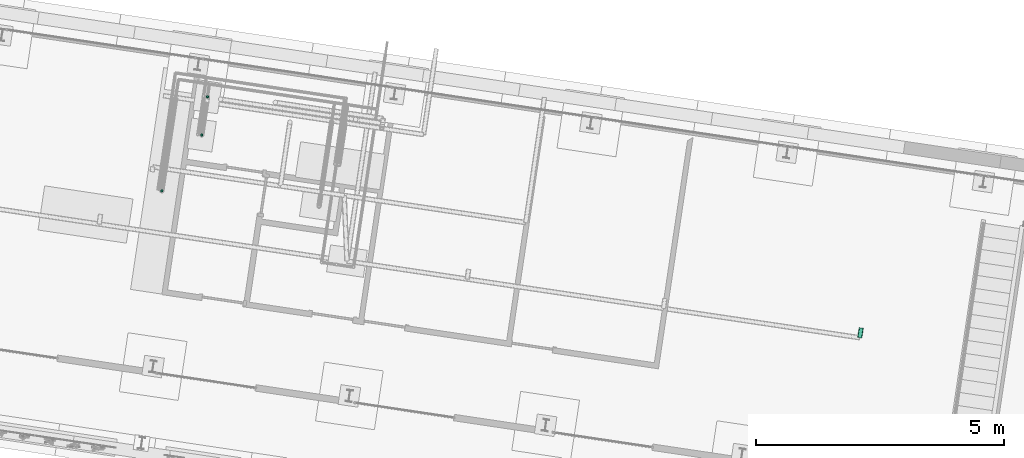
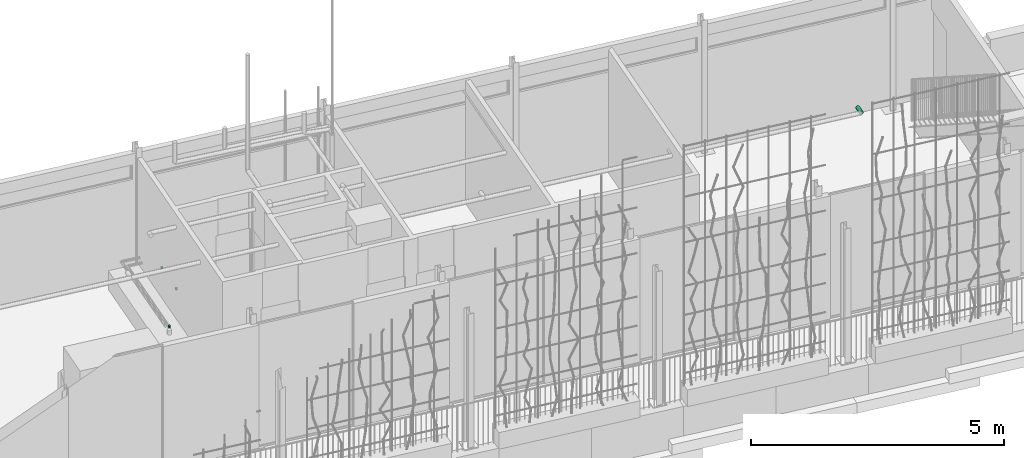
# One storey, part 139 of 142: 3 pipe segments, 1 duct segment.
"""IFC4 building model written with IfcOpenShell, lengths in metres."""

import ifcopenshell
import ifcopenshell.guid

model = None  # the IFC model being written
_history = None  # IfcOwnerHistory: only IFC2X3 demands one
_inside = {}  # id of a spatial element -> (the spatial element, [elements in it])
_under = {}  # id of a project, library or spatial element -> (it, [spatial elements below it])
_declared = {}  # id of a project -> (the project, [libraries it declares])
_typed = {}  # id of a type object -> (the type object, [elements of that type])
_made_of = {}  # id of a material, layer set ... -> (it, [elements and type objects made of it])


def new_model(schema):
    """Start an empty IFC model of exactly this schema.

    Asked for "IFC4X3", IfcOpenShell would pick the latest addendum, in which some entities
    have other attributes; the version numbers below select the first issue.
    IFC2X3 requires an IfcOwnerHistory on every rooted entity: one is made here for all.
    """
    global model, _history
    if schema == "IFC4X3":
        model = ifcopenshell.file(schema_version=(4, 3, 0, 0))
    else:
        model = ifcopenshell.file(schema=schema)
    _inside.clear()
    _under.clear()
    _declared.clear()
    _typed.clear()
    _made_of.clear()
    _history = None
    if model.schema == "IFC2X3":
        org = make("IfcOrganization", Name="unknown")
        user = make(
            "IfcPersonAndOrganization",
            ThePerson=make("IfcPerson", FamilyName="unknown"),
            TheOrganization=org,
        )
        app = make(
            "IfcApplication",
            ApplicationDeveloper=org,
            Version="unknown",
            ApplicationFullName="unknown",
            ApplicationIdentifier="unknown",
        )
        _history = make(
            "IfcOwnerHistory",
            OwningUser=user,
            OwningApplication=app,
            ChangeAction="ADDED",
            CreationDate=0,
        )
    return model


def make(cls, **values):
    """One entity of the class cls with the attributes given. An attribute that is None is left unset."""
    return model.create_entity(
        cls, **{name: value for name, value in values.items() if value is not None}
    )


def rooted(cls, **values):
    """An entity with a GlobalId (a new one), such as an element, a storey or a relation."""
    return make(cls, GlobalId=ifcopenshell.guid.new(), OwnerHistory=_history, **values)


def si_unit(unit_type, name, prefix=None):
    """IfcSIUnit, for example si_unit("LENGTHUNIT", "METRE", prefix="MILLI")."""
    return make("IfcSIUnit", UnitType=unit_type, Prefix=prefix, Name=name)


def assignment(units):
    """IfcUnitAssignment: the units of a project."""
    return None if units is None else make("IfcUnitAssignment", Units=units)


def point(xyz):
    """IfcCartesianPoint."""
    return None if xyz is None else make("IfcCartesianPoint", Coordinates=xyz)


def direction(xyz):
    """IfcDirection."""
    return None if xyz is None else make("IfcDirection", DirectionRatios=xyz)


def frame(location, z_axis=None, x_axis=None):
    """IfcAxis2Placement3D, a coordinate frame: its origin and axes. An axis left out is left unset."""
    return make(
        "IfcAxis2Placement3D",
        Location=point(location),
        Axis=direction(z_axis),
        RefDirection=direction(x_axis),
    )


def origin_with_axes():
    """The frame at (0, 0, 0) with the z axis (0, 0, 1) and the x axis (1, 0, 0) written out."""
    return frame((0.0, 0.0, 0.0), z_axis=(0.0, 0.0, 1.0), x_axis=(1.0, 0.0, 0.0))


def place(relative_to, where):
    """IfcLocalPlacement: puts the frame where relative to a parent placement (None: the world)."""
    return make(
        "IfcLocalPlacement", PlacementRelTo=relative_to, RelativePlacement=where
    )


def context(
    kind, dimensions, precision=None, world=None, true_north=None, identifier=None
):
    """IfcGeometricRepresentationContext, for example the 3D "Model" context."""
    return make(
        "IfcGeometricRepresentationContext",
        ContextIdentifier=identifier,
        ContextType=kind,
        CoordinateSpaceDimension=dimensions,
        Precision=precision,
        WorldCoordinateSystem=world,
        TrueNorth=true_north,
    )


def subcontext(parent, identifier, kind, view, scale=None):
    """IfcGeometricRepresentationSubContext, for example "Body" below "Model"."""
    return make(
        "IfcGeometricRepresentationSubContext",
        ContextIdentifier=identifier,
        ContextType=kind,
        ParentContext=parent,
        TargetScale=scale,
        TargetView=view,
    )


def project(units=None, contexts=None):
    """IfcProject with its units and contexts."""
    return rooted(
        "IfcProject",
        Name="project",
        RepresentationContexts=contexts,
        UnitsInContext=assignment(units),
    )


def spatial(cls, under=None, at=None, **own):
    """A site, building, storey or space (cls), placed at a placement, below another one or the project."""
    s = rooted(cls, ObjectPlacement=at, **own)
    if under is not None:
        _under.setdefault(under.id(), (under, []))[1].append(s)
    return s


def profile(cls, at=None, kind="AREA", **sizes):
    """A parametric profile (cls). Its sizes go by their IFC names, for example OverallWidth=200.0."""
    return make(cls, ProfileType=kind, Position=at, **sizes)


def circle(**sizes):
    """IfcCircleProfileDef."""
    return profile("IfcCircleProfileDef", **sizes)


def extrude(swept, where, along, depth):
    """IfcExtrudedAreaSolid: the profile swept, set in the frame where, extruded along a direction by depth."""
    return make(
        "IfcExtrudedAreaSolid",
        SweptArea=swept,
        Position=where,
        ExtrudedDirection=direction(along),
        Depth=depth,
    )


def shape(context_of_items, identifier, shape_type, items):
    """IfcShapeRepresentation: the items that make up one representation, for example the "Body"."""
    return make(
        "IfcShapeRepresentation",
        ContextOfItems=context_of_items,
        RepresentationIdentifier=identifier,
        RepresentationType=shape_type,
        Items=items,
    )


def material(Name=None, Category=None):
    """IfcMaterial."""
    return make("IfcMaterial", Name=Name, Category=Category)


def material_profile(
    of_material, cross_section, Name=None, Category=None, Priority=None
):
    """IfcMaterialProfile: a cross section and its material."""
    return make(
        "IfcMaterialProfile",
        Name=Name,
        Material=of_material,
        Profile=cross_section,
        Priority=Priority,
        Category=Category,
    )


def profile_set(profiles, Name=None, composite=None):
    """IfcMaterialProfileSet."""
    return make(
        "IfcMaterialProfileSet",
        Name=Name,
        MaterialProfiles=profiles,
        CompositeProfile=composite,
    )


def profile_usage(for_profile_set, cardinal=None, extent=None):
    """IfcMaterialProfileSetUsage: how a profile set lies along its element."""
    return make(
        "IfcMaterialProfileSetUsage",
        ForProfileSet=for_profile_set,
        CardinalPoint=cardinal,
        ReferenceExtent=extent,
    )


def made_of(thing, what):
    """Note that an element or type object is made of a material, layer set ...; save() writes the relation."""
    if what is not None:
        _made_of.setdefault(what.id(), (what, []))[1].append(thing)
    return thing


def type_object(cls, material=None, **own):
    """A type object (cls), such as IfcWallType, which elements share."""
    return made_of(rooted(cls, **own), material)


def element(
    cls,
    number,
    at=None,
    inside=None,
    cuts=None,
    type_object=None,
    material=None,
    context=None,
    identifier="Body",
    shape_type=None,
    held_by="IfcProductDefinitionShape",
    body=None,
    shapes=None,
    **own,
):
    """One element of the class cls, such as IfcWall. Its Tag is "e" and its number.

    at: its placement. inside: the storey or other place that contains it. cuts: it is an
    opening in that element (IfcRelVoidsElement). A single representation is given by context,
    identifier, shape_type and body (its items); several are given by shapes. held_by: the class
    of the entity that holds the representations. save() writes the other relations.
    """
    e = rooted(cls, Tag="e%d" % number, ObjectPlacement=at, **own)
    if body is not None:
        shapes = [shape(context, identifier, shape_type, body)]
    if shapes is not None:
        e.Representation = make(held_by, Representations=shapes)
    if inside is not None:
        _inside.setdefault(inside.id(), (inside, []))[1].append(e)
    if cuts is not None:
        rooted(
            "IfcRelVoidsElement", RelatingBuildingElement=cuts, RelatedOpeningElement=e
        )
    if type_object is not None:
        _typed.setdefault(type_object.id(), (type_object, []))[1].append(e)
    return made_of(e, material)


def aggregate(whole, parts):
    """IfcRelAggregates: a whole, such as a stair, and the parts it consists of."""
    return rooted("IfcRelAggregates", RelatingObject=whole, RelatedObjects=parts)


def save(model, path):
    """Write the relations noted so far, then the file.

    IfcRelAggregates (storeys below a building ...), IfcRelContainedInSpatialStructure (elements
    in a storey), IfcRelDefinesByType, IfcRelAssociatesMaterial and IfcRelDeclares: one each for
    every whole, place, type object, material and project.
    """
    for whole, parts in _under.values():
        aggregate(whole, parts)
    for where, things in _inside.values():
        rooted(
            "IfcRelContainedInSpatialStructure",
            RelatedElements=things,
            RelatingStructure=where,
        )
    for kind, things in _typed.values():
        rooted("IfcRelDefinesByType", RelatedObjects=things, RelatingType=kind)
    for what, things in _made_of.values():
        rooted("IfcRelAssociatesMaterial", RelatedObjects=things, RelatingMaterial=what)
    for by, libraries in _declared.values():
        rooted("IfcRelDeclares", RelatingContext=by, RelatedDefinitions=libraries)
    model.write(path)


model = new_model("IFC4")

# Units and contexts
model_context = context("Model", 3, precision=1e-05, world=origin_with_axes(), true_north=direction((0.0, 1.0)))
body_context = subcontext(model_context, "Body", "Model", "MODEL_VIEW")
ifc_project = project(units=[si_unit("VOLUMEUNIT", "CUBIC_METRE"), si_unit("LENGTHUNIT", "METRE"), si_unit("AREAUNIT", "SQUARE_METRE")], contexts=[model_context])

# Site, building, storey
site_placement = place(None, origin_with_axes())
site = spatial("IfcSite", under=ifc_project, at=site_placement, Name="Lares · Rua das Mercês · artigo 4771")
building_placement = place(site_placement, frame((12.0, 10.2, 13.9), z_axis=(0.0, 0.0, 1.0), x_axis=(0.989015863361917, -0.147809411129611, 0.0)))
building = spatial("IfcBuilding", under=site, at=building_placement, Name="Casa Sobreposta")
storey_placement = place(building_placement, origin_with_axes())
storey = spatial("IfcBuildingStorey", under=building, at=storey_placement, Name="00 · Habitação e estacionamento", Elevation=13.9)

# Pipe segments
ifc_material_1 = material(Name="cold · traçado de estudo", Category="schematic services")
ifc_material_profile_1 = material_profile(ifc_material_1, circle(Radius=0.025))
ifc_profile_set_1 = profile_set([ifc_material_profile_1], Name="D0.05")
ifc_profile_usage_1 = profile_usage(ifc_profile_set_1)
pipe_segment_type = type_object("IfcPipeSegmentType", Name="D0.05 / cold", PredefinedType="NOTDEFINED", material=ifc_profile_set_1)
pipe_segment_1_placement = place(storey_placement, frame((7.65, 3.65, 0.6), z_axis=(0.0, 0.0, 1.0), x_axis=(1.0, 0.0, 0.0)))
element("IfcPipeSegment", 1, at=pipe_segment_1_placement, inside=storey, type_object=pipe_segment_type, material=ifc_profile_usage_1, Name="AF · Lava-loiça", context=body_context, shape_type="SweptSolid", body=[
    extrude(circle(Radius=0.025), origin_with_axes(), (0.0, 0.0, 1.0), 0.05),
])
ifc_profile_usage_2 = profile_usage(ifc_profile_set_1)
pipe_segment_2_placement = place(storey_placement, frame((8.28, 4.88, 0.6), z_axis=(0.0, 0.0, -1.0), x_axis=(1.0, 0.0, 0.0)))
element("IfcPipeSegment", 2, at=pipe_segment_2_placement, inside=storey, type_object=pipe_segment_type, material=ifc_profile_usage_2, Name="AF · Lavatório 1", context=body_context, shape_type="SweptSolid", body=[
    extrude(circle(Radius=0.025), origin_with_axes(), (0.0, 0.0, 1.0), 0.0499999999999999),
])
ifc_profile_usage_3 = profile_usage(ifc_profile_set_1)
pipe_segment_3_placement = place(storey_placement, frame((8.28, 5.66, 0.6), z_axis=(0.0, 0.0, -1.0), x_axis=(1.0, 0.0, 0.0)))
element("IfcPipeSegment", 3, at=pipe_segment_3_placement, inside=storey, type_object=pipe_segment_type, material=ifc_profile_usage_3, Name="AF · Lavatório 2", context=body_context, shape_type="SweptSolid", body=[
    extrude(circle(Radius=0.025), origin_with_axes(), (0.0, 0.0, 1.0), 0.0499999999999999),
])

# Duct segment
ifc_material_2 = material(Name="supply · traçado de estudo", Category="schematic services")
ifc_material_profile_2 = material_profile(ifc_material_2, circle(Radius=0.045))
ifc_profile_set_2 = profile_set([ifc_material_profile_2], Name="D0.09")
ifc_profile_usage_4 = profile_usage(ifc_profile_set_2)
duct_segment_type = type_object("IfcDuctSegmentType", Name="D0.09 / supply", PredefinedType="NOTDEFINED", material=ifc_profile_set_2)
duct_segment_placement = place(storey_placement, frame((22.0, 2.8, 2.65), z_axis=(0.0, 1.0, 0.0), x_axis=(1.0, 0.0, 0.0)))
element("IfcDuctSegment", 4, at=duct_segment_placement, inside=storey, type_object=duct_segment_type, material=ifc_profile_usage_4, Name="VMC · insuflação", context=body_context, shape_type="SweptSolid", body=[
    extrude(circle(Radius=0.045), origin_with_axes(), (0.0, 0.0, 1.0), 0.2),
])

save(model, "model.ifc")
